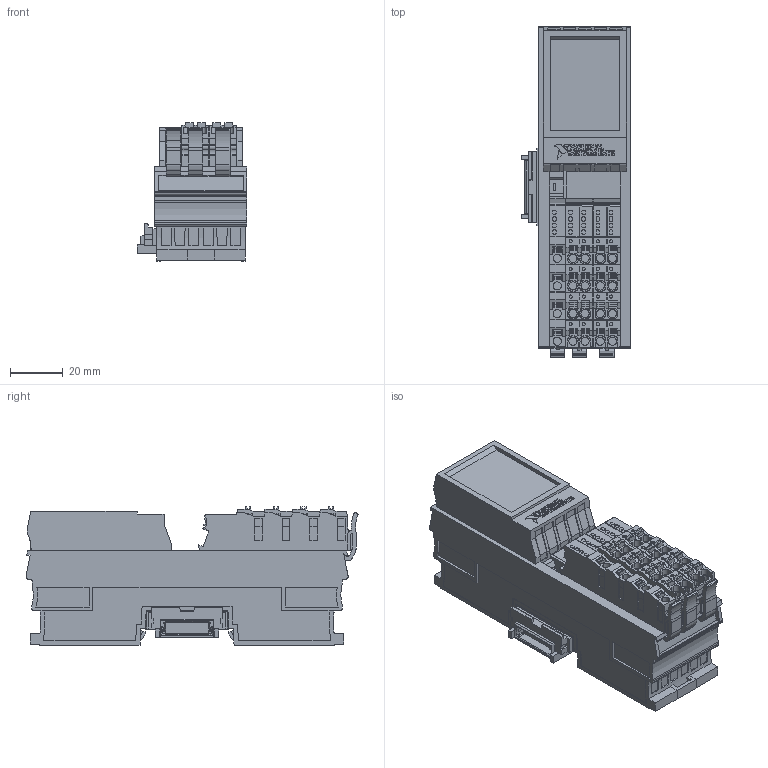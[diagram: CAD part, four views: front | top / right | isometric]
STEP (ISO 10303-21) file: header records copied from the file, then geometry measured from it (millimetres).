
FILE_DESCRIPTION((''),'2;1');
FILE_NAME('REM-11100_2688501_AXL_SW0001','2017-05-11T',('dkendric'),(''),'CREO PARAMETRIC BY PTC INC, 2015380','CREO PARAMETRIC BY PTC INC, 2015380','');
FILE_SCHEMA(('CONFIG_CONTROL_DESIGN'));
Products named in the file (1): REM-11100_2688501_AXL_SW0001
Bounding box: 41.8 x 126.17 x 52.6 mm (x, y, z)
Volume: 178052.9 mm3; surface area: 46418.6 mm2
Topology: 1 solids, 1 shells, 2500 faces, 7058 edges, 4724 vertices
Faces by surface type: plane 2001, cylinder 388, extrusion 79, cone 32
Entity records: 81456 total; most frequent: CARTESIAN_POINT 16642, ORIENTED_EDGE 14116, DIRECTION 12208, EDGE_CURVE 7058, VECTOR 5830, LINE 5751, VERTEX_POINT 4724, AXIS2_PLACEMENT_3D 3189
